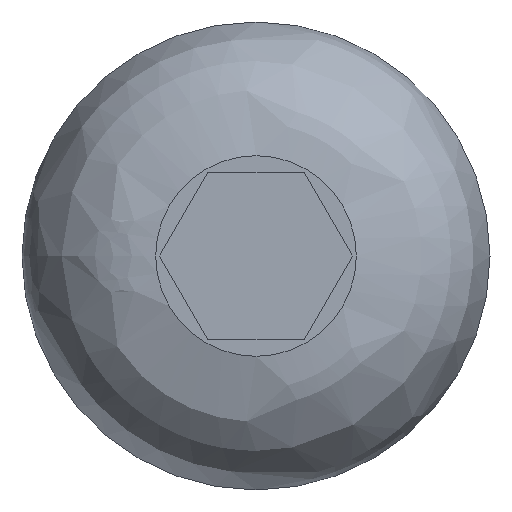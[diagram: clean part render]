
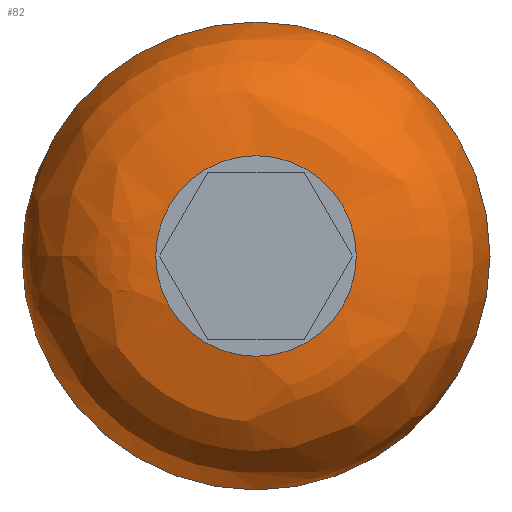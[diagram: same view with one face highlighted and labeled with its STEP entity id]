
A CAD part, left-side view. The second image highlights one B-rep face of the part: STEP entity #82.
In plain terms, the highlighted free-form (B-spline) face has degree [2, 2] with [7, 3] control points.
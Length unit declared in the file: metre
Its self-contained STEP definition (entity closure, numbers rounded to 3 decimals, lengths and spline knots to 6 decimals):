
#82 = ADVANCED_FACE( '', ( #107, #108 ), #109, .T. );
#107 = FACE_OUTER_BOUND( '', #212, .T. );
#108 = FACE_OUTER_BOUND( '', #213, .T. );
#109 = ( B_SPLINE_SURFACE( 2, 2, ( ( #215, #216, #217 ), ( #218, #219, #220 ), ( #221, #222, #223 ), ( #224, #225, #226 ), ( #227, #228, #229 ), ( #230, #231, #232 ), ( #233, #234, #235 ) ), .UNSPECIFIED., .T., .F., .F. )B_SPLINE_SURFACE_WITH_KNOTS( ( 3, 2, 2, 3 ), ( 3, 3 ), ( 0., 2.523783, 5.047566, 7.571349 ), ( 0., 1. ), .UNSPECIFIED. )RATIONAL_B_SPLINE_SURFACE( ( ( 1., 0.707, 1. ), ( 0.5, 0.354, 0.5 ), ( 1., 0.707, 1. ), ( 0.5, 0.354, 0.5 ), ( 1., 0.707, 1. ), ( 0.5, 0.354, 0.5 ), ( 1., 0.707, 1. ) ) )BOUNDED_SURFACE(  )REPRESENTATION_ITEM( '' )GEOMETRIC_REPRESENTATION_ITEM(  )SURFACE(  ) );
#212 = EDGE_LOOP( '', ( #320 ) );
#213 = EDGE_LOOP( '', ( #321 ) );
#215 = CARTESIAN_POINT( '', ( 4.583302, 3.131315, -0.169893 ) );
#216 = CARTESIAN_POINT( '', ( 4.579302, 3.131315, -0.169893 ) );
#217 = CARTESIAN_POINT( '', ( 4.579302, 3.127315, -0.169893 ) );
#218 = CARTESIAN_POINT( '', ( 4.583302, 3.131315, -0.182017 ) );
#219 = CARTESIAN_POINT( '', ( 4.579302, 3.131315, -0.182017 ) );
#220 = CARTESIAN_POINT( '', ( 4.579302, 3.127315, -0.175089 ) );
#221 = CARTESIAN_POINT( '', ( 4.583302, 3.120815, -0.175955 ) );
#222 = CARTESIAN_POINT( '', ( 4.579302, 3.120815, -0.175955 ) );
#223 = CARTESIAN_POINT( '', ( 4.579302, 3.122815, -0.172491 ) );
#224 = CARTESIAN_POINT( '', ( 4.583302, 3.110315, -0.169893 ) );
#225 = CARTESIAN_POINT( '', ( 4.579302, 3.110315, -0.169893 ) );
#226 = CARTESIAN_POINT( '', ( 4.579302, 3.118315, -0.169893 ) );
#227 = CARTESIAN_POINT( '', ( 4.583302, 3.120815, -0.163831 ) );
#228 = CARTESIAN_POINT( '', ( 4.579302, 3.120815, -0.163831 ) );
#229 = CARTESIAN_POINT( '', ( 4.579302, 3.122815, -0.167295 ) );
#230 = CARTESIAN_POINT( '', ( 4.583302, 3.131315, -0.157769 ) );
#231 = CARTESIAN_POINT( '', ( 4.579302, 3.131315, -0.157769 ) );
#232 = CARTESIAN_POINT( '', ( 4.579302, 3.127315, -0.164697 ) );
#233 = CARTESIAN_POINT( '', ( 4.583302, 3.131315, -0.169893 ) );
#234 = CARTESIAN_POINT( '', ( 4.579302, 3.131315, -0.169893 ) );
#235 = CARTESIAN_POINT( '', ( 4.579302, 3.127315, -0.169893 ) );
#320 = ORIENTED_EDGE( '', *, *, #361, .T. );
#321 = ORIENTED_EDGE( '', *, *, #363, .F. );
#361 = EDGE_CURVE( '', #397, #397, #398, .T. );
#363 = EDGE_CURVE( '', #401, #401, #402, .F. );
#397 = VERTEX_POINT( '', #458 );
#398 = CIRCLE( '', #459, 0.007 );
#401 = VERTEX_POINT( '', #462 );
#402 = CIRCLE( '', #463, 0.003 );
#458 = CARTESIAN_POINT( '', ( 4.583302, 3.131315, -0.169893 ) );
#459 = AXIS2_PLACEMENT_3D( '', #497, #498, #499 );
#462 = CARTESIAN_POINT( '', ( 4.579302, 3.127315, -0.169893 ) );
#463 = AXIS2_PLACEMENT_3D( '', #503, #504, #505 );
#497 = CARTESIAN_POINT( '', ( 4.583302, 3.124315, -0.169893 ) );
#498 = DIRECTION( '', ( -1., 0., 0. ) );
#499 = DIRECTION( '', ( 0., 0., 1. ) );
#503 = CARTESIAN_POINT( '', ( 4.579302, 3.124315, -0.169893 ) );
#504 = DIRECTION( '', ( 1., 0., 0. ) );
#505 = DIRECTION( '', ( 0., 0., -1. ) );
